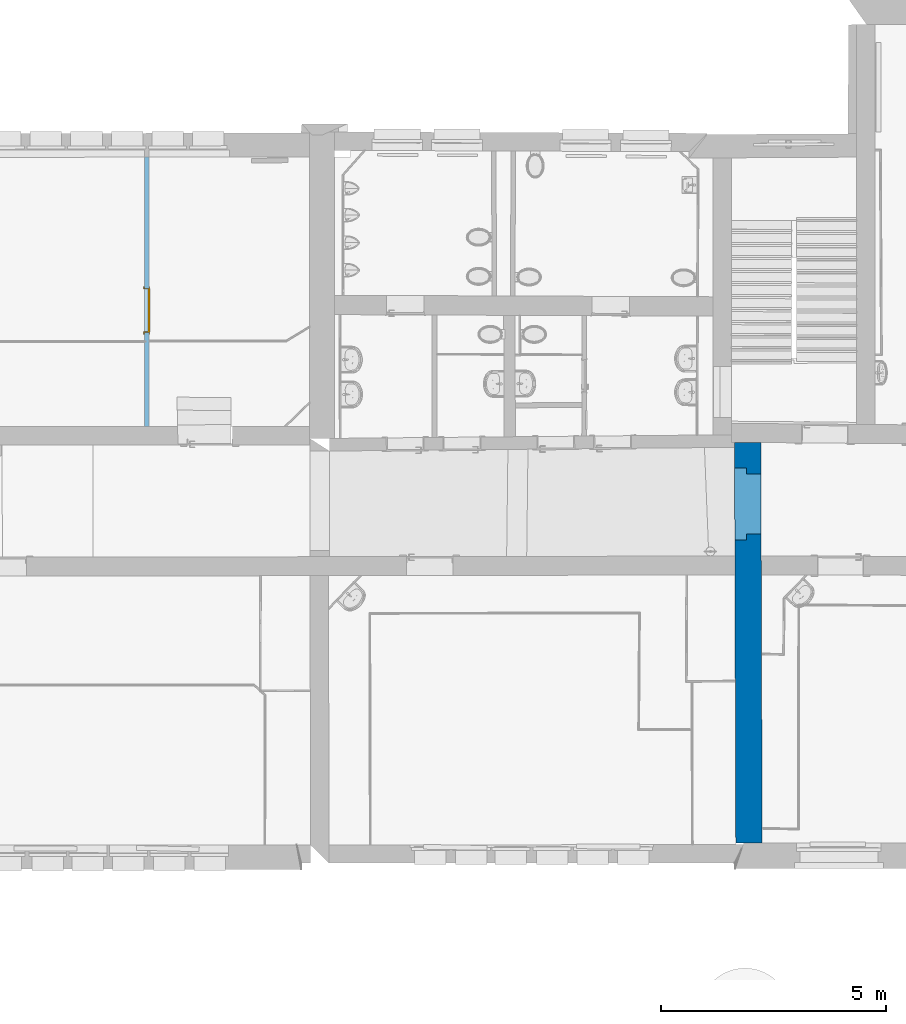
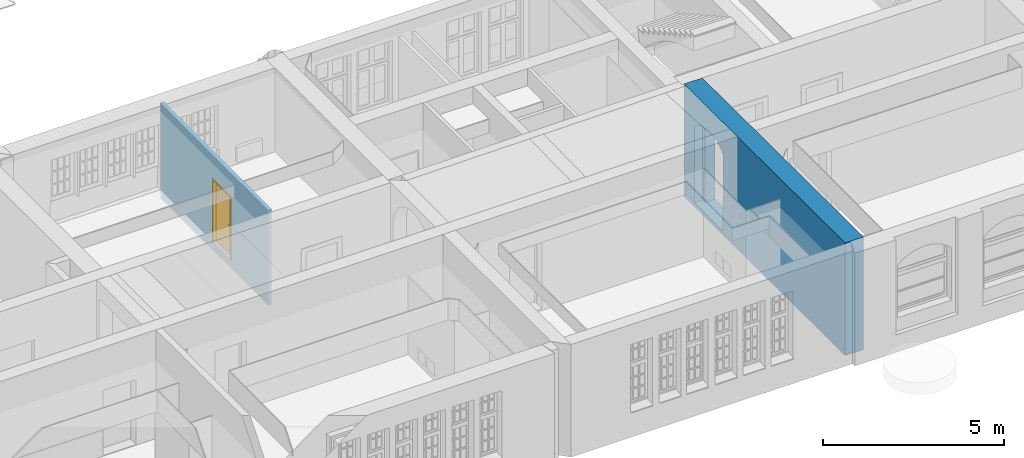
# One storey, part 80 of 158: 1 door, 1 wall, 2 openings, plus 1 element that does not belong to this part.
"""IFC2X3 building model written with IfcOpenShell, lengths in metres."""

from ifc_helpers import new_model, entity, si_unit, converted_unit, derived_unit, money_unit, direction, frame, origin_with_axes, origin_2d_with_axis, place, context, subcontext, project, spatial, polyline, rectangle, outline, extrude, boolean, faceted_brep, material, layer, layer_set, layer_usage, type_object, element, fill, save


model = new_model("IFC2X3")

# Units and contexts
model_context = context("Model", 3, precision=1e-05, world=origin_with_axes(), true_north=direction((0.0, 1.0)))
body_context = subcontext(model_context, "Body", "Model", "MODEL_VIEW")
ifc_project = project(units=[si_unit("LENGTHUNIT", "METRE"), si_unit("AREAUNIT", "SQUARE_METRE"), si_unit("VOLUMEUNIT", "CUBIC_METRE"), converted_unit("PLANEANGLEUNIT", "DEGREE", entity("IfcPlaneAngleMeasure", 0.0174532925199), si_unit("PLANEANGLEUNIT", "RADIAN"), dimensions=[0, 0, 0, 0, 0, 0, 0]), money_unit("EUR"), converted_unit("TIMEUNIT", "Year", entity("IfcTimeMeasure", 31556926.0), si_unit("TIMEUNIT", "SECOND"), dimensions=[0, 0, 1, 0, 0, 0, 0]), si_unit("MASSUNIT", "GRAM", prefix="KILO"), si_unit("THERMODYNAMICTEMPERATUREUNIT", "DEGREE_CELSIUS"), si_unit("LUMINOUSINTENSITYUNIT", "LUMEN"), si_unit("ENERGYUNIT", "JOULE", prefix="MEGA"), derived_unit("THERMALCONDUCTANCEUNIT", [(si_unit("POWERUNIT", "WATT"), 1), (si_unit("LENGTHUNIT", "METRE"), -1), (si_unit("THERMODYNAMICTEMPERATUREUNIT", "KELVIN"), -1)]), derived_unit("SPECIFICHEATCAPACITYUNIT", [(si_unit("ENERGYUNIT", "JOULE"), 1), (si_unit("MASSUNIT", "GRAM", prefix="KILO"), -1), (si_unit("THERMODYNAMICTEMPERATUREUNIT", "KELVIN"), -1)]), derived_unit("MASSDENSITYUNIT", [(si_unit("MASSUNIT", "GRAM", prefix="KILO"), 1), (si_unit("VOLUMEUNIT", "CUBIC_METRE"), -1)])], contexts=[model_context])

# Site, building, storey
site_placement = place(None, origin_with_axes())
site = spatial("IfcSite", under=ifc_project, at=site_placement, Name="Gelände", CompositionType="ELEMENT")
building_placement = place(site_placement, origin_with_axes())
building = spatial("IfcBuilding", under=site, at=building_placement, Name="Gebäude", CompositionType="ELEMENT")
storey_placement = place(building_placement, origin_with_axes())
storey = spatial("IfcBuildingStorey", under=building, at=storey_placement, Name="ERDGESCHOSS", CompositionType="ELEMENT", Elevation=0.0)

# Wall, opening, door
ifc_material_1 = material(Name="43_Gipskarton")
ifc_layer = layer(ifc_material_1, 0.1, ventilated="UNKNOWN")
ifc_layer_set = layer_set([ifc_layer], Name="43_Gipskarton 0.1")
ifc_layer_usage = layer_usage(ifc_layer_set, "AXIS2", "NEGATIVE", 0.0)
wall_type_1 = type_object("IfcWallType", Name="43_Gipskarton 100", PredefinedType="ELEMENTEDWALL")
wall_1_placement = place(storey_placement, frame((8.97609706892, 26.1968101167, 0.475), z_axis=(0.0, 0.0, 1.0), x_axis=(-0.000177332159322, -0.999999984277, 0.0)))
wall_1 = element("IfcWallStandardCase", 1, at=wall_1_placement, inside=storey, type_object=wall_type_1, material=ifc_layer_usage, Name="Wand-039", ObjectType="ELEMENTEDWALL", context=body_context, shape_type="SweptSolid", body=[
    extrude(outline(polyline([(0.530185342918, -0.1), (6.50207929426, -0.1), (6.50203244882, 0.0), (0.530000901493, 0.0), (0.530185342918, -0.1)])), origin_with_axes(), (0.0, 0.0, 1.0), 3.225),
])
opening_1_placement = place(wall_1_placement, frame((3.92877805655, 0.0, 0.288706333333), z_axis=(0.0, 0.0, 1.0), x_axis=(1.0, 0.0, 0.0)))
opening_1 = element("IfcOpeningElement", 2, at=opening_1_placement, cuts=wall_1, Name="Tür-022", context=body_context, shape_type="SweptSolid", body=[
    extrude(rectangle(XDim=0.970880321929, YDim=2.115749, at=origin_2d_with_axis()), frame((0.0, 0.1, 1.0578745), z_axis=(0.0, 1.0, 0.0), x_axis=(-1.0, 0.0, 0.0)), (0.0, 0.0, -1.0), 0.3),
])
door_style = type_object("IfcDoorStyle", Name="Blockrahmentür 1-Fl 25", ConstructionType="NOTDEFINED", OperationType="SINGLE_SWING_LEFT", ParameterTakesPrecedence=False, Sizeable=False)
door_placement = place(opening_1_placement, frame((-0.470440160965, 0.0, 0.0), z_axis=(0.0, 0.0, 1.0), x_axis=(1.0, 0.0, 0.0)))
door = element("IfcDoor", 3, at=door_placement, inside=storey, type_object=door_style, Name="Tür-022", ObjectType="NOTDEFINED", OverallHeight=2.11575, OverallWidth=0.97088, context=body_context, shape_type="Brep", body=[
    faceted_brep([(-0.015, -0.115, 0.0), (-0.015, -0.115, 2.115749), (-0.015, -0.015, 2.115749), (-0.015, -0.015, 0.0), (0.0, -0.115, 0.0), (0.0, -0.115, 2.100749), (0.358340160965, -0.115, 2.100749), (0.470340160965, -0.115, 2.100749), (0.940880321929, -0.115, 2.100749), (0.940880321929, -0.115, 0.0), (0.955880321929, -0.115, 0.0), (0.955880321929, -0.115, 2.115749), (0.955880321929, -0.015, 2.115749), (0.955880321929, -0.015, 0.0), (0.940880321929, -0.015, 0.0), (0.940880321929, -0.015, 2.100749), (0.470340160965, -0.015, 2.100749), (0.358340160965, -0.015, 2.100749), (0.0, -0.015, 2.100749), (0.0, -0.015, 0.0)], [[[0, 1, 2, 3]], [[0, 4, 5, 6, 7, 8, 9, 10, 11, 1]], [[1, 11, 12, 2]], [[3, 2, 12, 13, 14, 15, 16, 17, 18, 19]], [[4, 0, 3, 19]], [[5, 4, 19, 18]], [[6, 5, 18, 17]], [[7, 6, 17, 16]], [[8, 7, 16, 15]], [[9, 8, 15, 14]], [[10, 9, 14, 13]], [[11, 10, 13, 12]]]),
    faceted_brep([(-0.015, -0.015, 0.0), (-0.015, -0.015, 2.115749), (-0.015, 0.015, 2.115749), (-0.015, 0.015, 0.0), (-0.012, -0.015, 0.0), (-0.012, -0.015, 2.112749), (0.370340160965, -0.015, 2.112749), (0.458340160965, -0.015, 2.112749), (0.952880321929, -0.015, 2.112749), (0.952880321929, -0.015, 0.0), (0.955880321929, -0.015, 0.0), (0.955880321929, -0.015, 2.115749), (0.955880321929, 0.015, 2.115749), (0.955880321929, 0.015, 0.0), (0.952880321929, 0.015, 0.0), (0.952880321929, 0.015, 2.112749), (0.458340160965, 0.015, 2.112749), (0.370340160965, 0.015, 2.112749), (-0.012, 0.015, 2.112749), (-0.012, 0.015, 0.0)], [[[0, 1, 2, 3]], [[0, 4, 5, 6, 7, 8, 9, 10, 11, 1]], [[1, 11, 12, 2]], [[3, 2, 12, 13, 14, 15, 16, 17, 18, 19]], [[4, 0, 3, 19]], [[5, 4, 19, 18]], [[6, 5, 18, 17]], [[7, 6, 17, 16]], [[8, 7, 16, 15]], [[9, 8, 15, 14]], [[10, 9, 14, 13]], [[11, 10, 13, 12]]]),
    faceted_brep([(-0.06, -0.115, 0.0), (-0.06, -0.115, 2.160749), (-0.06, -0.1, 2.160749), (-0.06, -0.1, 0.0), (-0.015, -0.115, 0.0), (-0.015, -0.115, 2.115749), (0.955880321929, -0.115, 2.115749), (0.955880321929, -0.115, 0.0), (1.00088032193, -0.115, 0.0), (1.00088032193, -0.115, 2.160749), (1.00088032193, -0.1, 2.160749), (1.00088032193, -0.1, 0.0), (0.955880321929, -0.1, 0.0), (0.955880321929, -0.1, 2.115749), (-0.015, -0.1, 2.115749), (-0.015, -0.1, 0.0)], [[[0, 1, 2, 3]], [[0, 4, 5, 6, 7, 8, 9, 1]], [[1, 9, 10, 2]], [[3, 2, 10, 11, 12, 13, 14, 15]], [[4, 0, 3, 15]], [[5, 4, 15, 14]], [[6, 5, 14, 13]], [[7, 6, 13, 12]], [[8, 7, 12, 11]], [[9, 8, 11, 10]]]),
    faceted_brep([(-0.06, 0.0, 0.0), (-0.06, 0.0, 2.160749), (-0.06, 0.015, 2.160749), (-0.06, 0.015, 0.0), (-0.015, 0.0, 0.0), (-0.015, 0.0, 2.115749), (0.955880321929, 0.0, 2.115749), (0.955880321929, 0.0, 0.0), (1.00088032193, 0.0, 0.0), (1.00088032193, 0.0, 2.160749), (1.00088032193, 0.015, 2.160749), (1.00088032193, 0.015, 0.0), (0.955880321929, 0.015, 0.0), (0.955880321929, 0.015, 2.115749), (-0.015, 0.015, 2.115749), (-0.015, 0.015, 0.0)], [[[0, 1, 2, 3]], [[0, 4, 5, 6, 7, 8, 9, 1]], [[1, 9, 10, 2]], [[3, 2, 10, 11, 12, 13, 14, 15]], [[4, 0, 3, 15]], [[5, 4, 15, 14]], [[6, 5, 14, 13]], [[7, 6, 13, 12]], [[8, 7, 12, 11]], [[9, 8, 11, 10]]]),
    faceted_brep([(-0.012, 0.025, 0.0), (-0.012, 0.025, 2.112749), (0.952880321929, 0.025, 2.112749), (0.952880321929, 0.025, 0.0), (-0.012, -0.015, 0.0), (-0.012, -0.015, 2.112749), (0.952880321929, -0.015, 2.112749), (0.952880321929, -0.015, 0.0)], [[[0, 1, 2, 3]], [[0, 4, 5, 1]], [[1, 5, 6, 2]], [[2, 6, 7, 3]], [[3, 7, 4, 0]], [[7, 6, 5, 4]]]),
    faceted_brep([(0.897582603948, -0.055, 1.05647213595), (0.897582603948, -0.035, 1.05647213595), (0.892880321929, -0.035, 1.058), (0.892880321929, -0.055, 1.058), (0.90048877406, -0.055, 1.05247213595), (0.90048877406, -0.035, 1.05247213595), (0.898758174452, -0.033, 1.05809016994), (0.892880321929, -0.033, 1.06), (0.888178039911, -0.035, 1.05647213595), (0.888178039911, -0.055, 1.05647213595), (0.885271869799, -0.055, 1.05247213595), (0.885271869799, -0.055, 1.04752786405), (0.888178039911, -0.055, 1.04352786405), (0.892880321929, -0.055, 1.042), (0.897582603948, -0.055, 1.04352786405), (0.90048877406, -0.055, 1.04752786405), (0.90048877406, -0.035, 1.04752786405), (0.902390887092, -0.033, 1.05309016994), (0.898758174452, -0.025, 1.05809016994), (0.892880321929, -0.025, 1.06), (0.887002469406, -0.033, 1.05809016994), (0.885271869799, -0.035, 1.05247213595), (0.885271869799, -0.035, 1.04752786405), (0.888178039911, -0.035, 1.04352786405), (0.892880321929, -0.035, 1.042), (0.897582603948, -0.035, 1.04352786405), (0.902390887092, -0.033, 1.04690983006), (0.902390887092, -0.025, 1.05309016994), (0.902390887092, -0.025, 1.04690983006), (0.898758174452, -0.025, 1.04190983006), (0.892880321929, -0.025, 1.04), (0.887002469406, -0.025, 1.04190983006), (0.883369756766, -0.025, 1.04690983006), (0.883369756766, -0.025, 1.05309016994), (0.887002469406, -0.025, 1.05809016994), (0.883369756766, -0.033, 1.05309016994), (0.883369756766, -0.033, 1.04690983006), (0.887002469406, -0.033, 1.04190983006), (0.892880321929, -0.033, 1.04), (0.898758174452, -0.033, 1.04190983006)], [[[0, 1, 2, 3]], [[4, 5, 1, 0]], [[1, 6, 7, 2]], [[3, 2, 8, 9]], [[3, 9, 10, 11, 12, 13, 14, 15, 4, 0]], [[15, 16, 5, 4]], [[5, 17, 6, 1]], [[6, 18, 19, 7]], [[2, 7, 20, 8]], [[9, 8, 21, 10]], [[10, 21, 22, 11]], [[11, 22, 23, 12]], [[12, 23, 24, 13]], [[13, 24, 25, 14]], [[14, 25, 16, 15]], [[16, 26, 17, 5]], [[17, 27, 18, 6]], [[19, 18, 27, 28, 29, 30, 31, 32, 33, 34]], [[7, 19, 34, 20]], [[8, 20, 35, 21]], [[21, 35, 36, 22]], [[22, 36, 37, 23]], [[23, 37, 38, 24]], [[24, 38, 39, 25]], [[25, 39, 26, 16]], [[26, 28, 27, 17]], [[39, 29, 28, 26]], [[38, 30, 29, 39]], [[37, 31, 30, 38]], [[36, 32, 31, 37]], [[35, 33, 32, 36]], [[20, 34, 33, 35]]]),
    faceted_brep([(0.880691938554, -0.025, 1.11759695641), (0.876080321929, -0.025, 1.11), (0.870380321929, -0.025, 1.11), (0.870380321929, -0.025, 0.89), (0.876080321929, -0.025, 0.89), (0.880691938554, -0.025, 0.882403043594), (0.888436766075, -0.025, 0.878044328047), (0.897323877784, -0.025, 0.878044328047), (0.905068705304, -0.025, 0.882403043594), (0.909680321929, -0.025, 0.89), (0.915380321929, -0.025, 0.89), (0.915380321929, -0.025, 1.11), (0.909680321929, -0.025, 1.11), (0.905068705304, -0.025, 1.11759695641), (0.897323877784, -0.025, 1.12195567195), (0.888436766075, -0.025, 1.12195567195), (0.892880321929, -0.025, 0.967425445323), (0.898255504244, -0.025, 0.965143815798), (0.900348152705, -0.025, 0.959692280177), (0.897880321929, -0.025, 0.9544), (0.897880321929, -0.025, 0.9375), (0.896415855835, -0.025, 0.933964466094), (0.892880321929, -0.025, 0.9325), (0.889344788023, -0.025, 0.933964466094), (0.887880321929, -0.025, 0.9375), (0.887880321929, -0.025, 0.9544), (0.885412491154, -0.025, 0.959692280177), (0.887505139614, -0.025, 0.965143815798), (0.880691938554, -0.015, 1.11759695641), (0.876080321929, -0.015, 1.11), (0.870380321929, -0.015, 1.11), (0.870380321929, -0.015, 0.89), (0.876080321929, -0.015, 0.89), (0.880691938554, -0.015, 0.882403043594), (0.888436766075, -0.015, 0.878044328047), (0.897323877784, -0.015, 0.878044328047), (0.905068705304, -0.015, 0.882403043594), (0.909680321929, -0.015, 0.89), (0.915380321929, -0.015, 0.89), (0.915380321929, -0.015, 1.11), (0.909680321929, -0.015, 1.11), (0.905068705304, -0.015, 1.11759695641), (0.897323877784, -0.015, 1.12195567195), (0.888436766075, -0.015, 1.12195567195), (0.892880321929, -0.015, 0.967425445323), (0.898255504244, -0.015, 0.965143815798), (0.900348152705, -0.015, 0.959692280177), (0.897880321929, -0.015, 0.9544), (0.897880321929, -0.015, 0.9375), (0.896415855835, -0.015, 0.933964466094), (0.892880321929, -0.015, 0.9325), (0.889344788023, -0.015, 0.933964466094), (0.887880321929, -0.015, 0.9375), (0.887880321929, -0.015, 0.9544), (0.885412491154, -0.015, 0.959692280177), (0.887505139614, -0.015, 0.965143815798)], [[[0, 1, 2, 3, 4, 5, 6, 7, 8, 9, 10, 11, 12, 13, 14, 15], [16, 17, 18, 19, 20, 21, 22, 23, 24, 25, 26, 27]], [[0, 28, 29, 1]], [[1, 29, 30, 2]], [[2, 30, 31, 3]], [[3, 31, 32, 4]], [[4, 32, 33, 5]], [[5, 33, 34, 6]], [[6, 34, 35, 7]], [[7, 35, 36, 8]], [[8, 36, 37, 9]], [[9, 37, 38, 10]], [[10, 38, 39, 11]], [[11, 39, 40, 12]], [[12, 40, 41, 13]], [[13, 41, 42, 14]], [[14, 42, 43, 15]], [[15, 43, 28, 0]], [[16, 44, 45, 17]], [[17, 45, 46, 18]], [[18, 46, 47, 19]], [[47, 48, 20, 19]], [[21, 20, 48, 49]], [[22, 21, 49, 50]], [[23, 22, 50, 51]], [[24, 23, 51, 52]], [[25, 24, 52, 53]], [[25, 53, 54, 26]], [[26, 54, 55, 27]], [[27, 55, 44, 16]], [[32, 31, 30, 29, 28, 43, 42, 41, 40, 39, 38, 37, 36, 35, 34, 33], [46, 45, 44, 55, 54, 53, 52, 51, 50, 49, 48, 47]]]),
    faceted_brep([(0.778627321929, -0.055, 1.057158), (0.778625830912, -0.055, 1.05719388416), (0.778625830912, -0.07, 1.05719388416), (0.778627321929, -0.07, 1.057158), (0.805654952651, -0.055, 1.06432652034), (0.833483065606, -0.055, 1.06706086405), (0.861389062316, -0.055, 1.06529002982), (0.888648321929, -0.055, 1.05906), (0.895050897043, -0.055, 1.05976125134), (0.900552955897, -0.055, 1.05641280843), (0.902871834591, -0.055, 1.05040385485), (0.901045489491, -0.055, 1.04422735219), (0.895831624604, -0.055, 1.04044577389), (0.889393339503, -0.055, 1.04062800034), (0.884401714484, -0.055, 1.04469843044), (0.884422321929, -0.055, 1.044666), (0.859133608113, -0.055, 1.05019878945), (0.833291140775, -0.055, 1.05171460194), (0.807529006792, -0.055, 1.04917624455), (0.782479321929, -0.055, 1.042646), (0.776936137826, -0.055, 1.04356849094), (0.773574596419, -0.055, 1.04807159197), (0.774266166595, -0.055, 1.05364829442), (0.774266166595, -0.07, 1.05364829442), (0.773574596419, -0.07, 1.04807159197), (0.776936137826, -0.07, 1.04356849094), (0.782479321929, -0.07, 1.042646), (0.807529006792, -0.07, 1.04917624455), (0.833291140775, -0.07, 1.05171460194), (0.859133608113, -0.07, 1.05019878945), (0.884422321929, -0.07, 1.044666), (0.884401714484, -0.07, 1.04469843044), (0.889393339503, -0.07, 1.04062800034), (0.895831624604, -0.07, 1.04044577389), (0.901045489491, -0.07, 1.04422735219), (0.902871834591, -0.07, 1.05040385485), (0.900552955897, -0.07, 1.05641280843), (0.895050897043, -0.07, 1.05976125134), (0.888648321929, -0.07, 1.05906), (0.861389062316, -0.07, 1.06529002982), (0.833483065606, -0.07, 1.06706086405), (0.805654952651, -0.07, 1.06432652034)], [[[0, 1, 2, 3]], [[0, 4, 5, 6, 7, 8, 9, 10, 11, 12, 13, 14, 15, 16, 17, 18, 19, 20, 21, 22, 1]], [[1, 22, 23, 2]], [[3, 2, 23, 24, 25, 26, 27, 28, 29, 30, 31, 32, 33, 34, 35, 36, 37, 38, 39, 40, 41]], [[4, 0, 3, 41]], [[5, 4, 41, 40]], [[6, 5, 40, 39]], [[7, 6, 39, 38]], [[8, 7, 38, 37]], [[9, 8, 37, 36]], [[10, 9, 36, 35]], [[11, 10, 35, 34]], [[12, 11, 34, 33]], [[13, 12, 33, 32]], [[14, 13, 32, 31]], [[15, 14, 31, 30]], [[16, 15, 30, 29]], [[17, 16, 29, 28]], [[18, 17, 28, 27]], [[19, 18, 27, 26]], [[20, 19, 26, 25]], [[21, 20, 25, 24]], [[22, 21, 24, 23]]]),
    faceted_brep([(0.897582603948, 0.065, 1.05647213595), (0.892880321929, 0.065, 1.058), (0.892880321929, 0.045, 1.058), (0.897582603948, 0.045, 1.05647213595), (0.90048877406, 0.065, 1.05247213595), (0.90048877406, 0.065, 1.04752786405), (0.897582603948, 0.065, 1.04352786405), (0.892880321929, 0.065, 1.042), (0.888178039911, 0.065, 1.04352786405), (0.885271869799, 0.065, 1.04752786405), (0.885271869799, 0.065, 1.05247213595), (0.888178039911, 0.065, 1.05647213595), (0.888178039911, 0.045, 1.05647213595), (0.892880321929, 0.043, 1.06), (0.898758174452, 0.043, 1.05809016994), (0.90048877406, 0.045, 1.05247213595), (0.90048877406, 0.045, 1.04752786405), (0.897582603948, 0.045, 1.04352786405), (0.892880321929, 0.045, 1.042), (0.888178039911, 0.045, 1.04352786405), (0.885271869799, 0.045, 1.04752786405), (0.885271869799, 0.045, 1.05247213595), (0.887002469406, 0.043, 1.05809016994), (0.892880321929, 0.035, 1.06), (0.898758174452, 0.035, 1.05809016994), (0.902390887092, 0.043, 1.05309016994), (0.902390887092, 0.043, 1.04690983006), (0.898758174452, 0.043, 1.04190983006), (0.892880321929, 0.043, 1.04), (0.887002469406, 0.043, 1.04190983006), (0.883369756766, 0.043, 1.04690983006), (0.883369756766, 0.043, 1.05309016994), (0.887002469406, 0.035, 1.05809016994), (0.883369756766, 0.035, 1.05309016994), (0.883369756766, 0.035, 1.04690983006), (0.887002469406, 0.035, 1.04190983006), (0.892880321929, 0.035, 1.04), (0.898758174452, 0.035, 1.04190983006), (0.902390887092, 0.035, 1.04690983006), (0.902390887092, 0.035, 1.05309016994)], [[[0, 1, 2, 3]], [[1, 0, 4, 5, 6, 7, 8, 9, 10, 11]], [[1, 11, 12, 2]], [[3, 2, 13, 14]], [[4, 0, 3, 15]], [[5, 4, 15, 16]], [[6, 5, 16, 17]], [[7, 6, 17, 18]], [[8, 7, 18, 19]], [[9, 8, 19, 20]], [[10, 9, 20, 21]], [[11, 10, 21, 12]], [[2, 12, 22, 13]], [[14, 13, 23, 24]], [[15, 3, 14, 25]], [[16, 15, 25, 26]], [[17, 16, 26, 27]], [[18, 17, 27, 28]], [[19, 18, 28, 29]], [[20, 19, 29, 30]], [[21, 20, 30, 31]], [[12, 21, 31, 22]], [[13, 22, 32, 23]], [[23, 32, 33, 34, 35, 36, 37, 38, 39, 24]], [[25, 14, 24, 39]], [[26, 25, 39, 38]], [[27, 26, 38, 37]], [[28, 27, 37, 36]], [[29, 28, 36, 35]], [[30, 29, 35, 34]], [[31, 30, 34, 33]], [[22, 31, 33, 32]]]),
    faceted_brep([(0.880691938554, 0.025, 1.11759695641), (0.876080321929, 0.025, 1.11), (0.870380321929, 0.025, 1.11), (0.870380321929, 0.025, 0.89), (0.876080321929, 0.025, 0.89), (0.880691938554, 0.025, 0.882403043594), (0.888436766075, 0.025, 0.878044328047), (0.897323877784, 0.025, 0.878044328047), (0.905068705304, 0.025, 0.882403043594), (0.909680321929, 0.025, 0.89), (0.915380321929, 0.025, 0.89), (0.915380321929, 0.025, 1.11), (0.909680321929, 0.025, 1.11), (0.905068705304, 0.025, 1.11759695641), (0.897323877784, 0.025, 1.12195567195), (0.888436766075, 0.025, 1.12195567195), (0.892880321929, 0.025, 0.967425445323), (0.898255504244, 0.025, 0.965143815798), (0.900348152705, 0.025, 0.959692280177), (0.897880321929, 0.025, 0.9544), (0.897880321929, 0.025, 0.9375), (0.896415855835, 0.025, 0.933964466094), (0.892880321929, 0.025, 0.9325), (0.889344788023, 0.025, 0.933964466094), (0.887880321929, 0.025, 0.9375), (0.887880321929, 0.025, 0.9544), (0.885412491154, 0.025, 0.959692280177), (0.887505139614, 0.025, 0.965143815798), (0.880691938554, 0.035, 1.11759695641), (0.876080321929, 0.035, 1.11), (0.870380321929, 0.035, 1.11), (0.870380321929, 0.035, 0.89), (0.876080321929, 0.035, 0.89), (0.880691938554, 0.035, 0.882403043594), (0.888436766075, 0.035, 0.878044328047), (0.897323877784, 0.035, 0.878044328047), (0.905068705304, 0.035, 0.882403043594), (0.909680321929, 0.035, 0.89), (0.915380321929, 0.035, 0.89), (0.915380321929, 0.035, 1.11), (0.909680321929, 0.035, 1.11), (0.905068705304, 0.035, 1.11759695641), (0.897323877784, 0.035, 1.12195567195), (0.888436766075, 0.035, 1.12195567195), (0.892880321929, 0.035, 0.967425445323), (0.898255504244, 0.035, 0.965143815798), (0.900348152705, 0.035, 0.959692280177), (0.897880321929, 0.035, 0.9544), (0.897880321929, 0.035, 0.9375), (0.896415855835, 0.035, 0.933964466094), (0.892880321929, 0.035, 0.9325), (0.889344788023, 0.035, 0.933964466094), (0.887880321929, 0.035, 0.9375), (0.887880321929, 0.035, 0.9544), (0.885412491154, 0.035, 0.959692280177), (0.887505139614, 0.035, 0.965143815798)], [[[0, 1, 2, 3, 4, 5, 6, 7, 8, 9, 10, 11, 12, 13, 14, 15], [16, 17, 18, 19, 20, 21, 22, 23, 24, 25, 26, 27]], [[28, 29, 1, 0]], [[29, 30, 2, 1]], [[30, 31, 3, 2]], [[31, 32, 4, 3]], [[32, 33, 5, 4]], [[33, 34, 6, 5]], [[34, 35, 7, 6]], [[35, 36, 8, 7]], [[36, 37, 9, 8]], [[37, 38, 10, 9]], [[38, 39, 11, 10]], [[39, 40, 12, 11]], [[40, 41, 13, 12]], [[41, 42, 14, 13]], [[42, 43, 15, 14]], [[43, 28, 0, 15]], [[16, 44, 45, 17]], [[17, 45, 46, 18]], [[18, 46, 47, 19]], [[47, 48, 20, 19]], [[21, 20, 48, 49]], [[22, 21, 49, 50]], [[23, 22, 50, 51]], [[24, 23, 51, 52]], [[25, 24, 52, 53]], [[25, 53, 54, 26]], [[26, 54, 55, 27]], [[27, 55, 44, 16]], [[32, 31, 30, 29, 28, 43, 42, 41, 40, 39, 38, 37, 36, 35, 34, 33], [46, 45, 44, 55, 54, 53, 52, 51, 50, 49, 48, 47]]]),
    faceted_brep([(0.778627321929, 0.065, 1.057158), (0.778627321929, 0.08, 1.057158), (0.778625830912, 0.08, 1.05719388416), (0.778625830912, 0.065, 1.05719388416), (0.805654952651, 0.065, 1.06432652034), (0.805654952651, 0.08, 1.06432652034), (0.833483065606, 0.08, 1.06706086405), (0.861389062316, 0.08, 1.06529002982), (0.888648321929, 0.08, 1.05906), (0.895050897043, 0.08, 1.05976125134), (0.900552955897, 0.08, 1.05641280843), (0.902871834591, 0.08, 1.05040385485), (0.901045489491, 0.08, 1.04422735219), (0.895831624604, 0.08, 1.04044577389), (0.889393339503, 0.08, 1.04062800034), (0.884401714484, 0.08, 1.04469843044), (0.884422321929, 0.08, 1.044666), (0.859133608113, 0.08, 1.05019878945), (0.833291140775, 0.08, 1.05171460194), (0.807529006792, 0.08, 1.04917624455), (0.782479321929, 0.08, 1.042646), (0.776936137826, 0.08, 1.04356849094), (0.773574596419, 0.08, 1.04807159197), (0.774266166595, 0.08, 1.05364829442), (0.774266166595, 0.065, 1.05364829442), (0.773574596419, 0.065, 1.04807159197), (0.776936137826, 0.065, 1.04356849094), (0.782479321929, 0.065, 1.042646), (0.807529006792, 0.065, 1.04917624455), (0.833291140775, 0.065, 1.05171460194), (0.859133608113, 0.065, 1.05019878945), (0.884422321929, 0.065, 1.044666), (0.884401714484, 0.065, 1.04469843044), (0.889393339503, 0.065, 1.04062800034), (0.895831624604, 0.065, 1.04044577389), (0.901045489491, 0.065, 1.04422735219), (0.902871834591, 0.065, 1.05040385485), (0.900552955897, 0.065, 1.05641280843), (0.895050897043, 0.065, 1.05976125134), (0.888648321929, 0.065, 1.05906), (0.861389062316, 0.065, 1.06529002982), (0.833483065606, 0.065, 1.06706086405)], [[[0, 1, 2, 3]], [[4, 5, 1, 0]], [[1, 5, 6, 7, 8, 9, 10, 11, 12, 13, 14, 15, 16, 17, 18, 19, 20, 21, 22, 23, 2]], [[3, 2, 23, 24]], [[0, 3, 24, 25, 26, 27, 28, 29, 30, 31, 32, 33, 34, 35, 36, 37, 38, 39, 40, 41, 4]], [[41, 6, 5, 4]], [[40, 7, 6, 41]], [[39, 8, 7, 40]], [[38, 9, 8, 39]], [[37, 10, 9, 38]], [[36, 11, 10, 37]], [[35, 12, 11, 36]], [[34, 13, 12, 35]], [[33, 14, 13, 34]], [[32, 15, 14, 33]], [[31, 16, 15, 32]], [[30, 17, 16, 31]], [[29, 18, 17, 30]], [[28, 19, 18, 29]], [[27, 20, 19, 28]], [[26, 21, 20, 27]], [[25, 22, 21, 26]], [[24, 23, 22, 25]]]),
])
fill(opening_1, door)

# Wall, opening
ifc_material_2 = material(Name="05_ALLGEMEIN - TRAGENDE BAUTEILE")
wall_type_2 = type_object("IfcWallType", Name="05_ALLGEMEIN - TRAGENDE BAUTEILE 585", PredefinedType="ELEMENTEDWALL")
wall_2_placement = place(storey_placement, frame((21.9635319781, 19.3421387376, -0.21), z_axis=(0.0, 0.0, 1.0), x_axis=(0.00314804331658, -0.999995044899, 0.0)))
wall_2 = element("IfcWall", 4, at=wall_2_placement, inside=storey, type_object=wall_type_2, material=ifc_material_2, Name="Wand-040", ObjectType="ELEMENTEDWALL", context=body_context, shape_type="CSG", body=[
    boolean("DIFFERENCE", boolean("DIFFERENCE", extrude(outline(polyline([(-0.42002806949, 0.0), (9.45493617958, 0.0), (9.45493617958, 0.584866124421), (-0.42002806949, 0.584866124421), (-0.42002806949, 0.0)])), origin_with_axes(), (0.0, 0.0, 1.0), 3.81), faceted_brep([(0.0, 0.0, 3.81), (0.00676194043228, 0.584866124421, 3.81), (-0.42002806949, 0.584866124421, 3.81), (-0.42002806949, 0.0, 3.81), (0.00676194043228, 0.584866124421, 0.0), (0.0, 0.0, 0.0), (-0.42002806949, 0.584866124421, 0.0), (-0.42002806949, 0.0, 0.0)], [[[0, 1, 2, 3]], [[4, 1, 0, 5]], [[1, 4, 6, 2]], [[2, 6, 7, 3]], [[5, 0, 3, 7]], [[4, 5, 7, 6]]])), faceted_brep([(8.88493381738, 0.584866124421, 0.0), (8.88493381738, 0.584866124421, 3.81), (9.45493617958, 0.584866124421, 3.81), (9.45493617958, 0.584866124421, 0.0), (8.8832500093, 0.0, 3.81), (8.8832500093, 0.0, 0.0), (9.45493617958, 0.0, 3.81), (9.45493617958, 0.0, 0.0)], [[[0, 1, 2, 3]], [[4, 1, 0, 5]], [[1, 4, 6, 2]], [[6, 7, 3, 2]], [[5, 0, 3, 7]], [[4, 5, 7, 6]]])),
])
opening_2_placement = place(wall_2_placement, frame((1.36804959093, 0.0, 0.14), z_axis=(0.0, 0.0, 1.0), x_axis=(1.0, 0.0, 0.0)))
element("IfcOpeningElement", 5, at=opening_2_placement, cuts=wall_2, Name="Tür-022", context=body_context, shape_type="SweptSolid", body=[
    extrude(outline(polyline([(-0.662264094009, 0.0), (-0.662264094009, -2.52067231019), (-0.466325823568, -2.66394893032), (-0.240801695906, -2.75372010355), (0.0, -2.78429033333), (0.240801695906, -2.75372010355), (0.466325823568, -2.66394893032), (0.662264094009, -2.52067231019), (0.662264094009, 0.0), (-0.662264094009, 0.0)])), frame((0.0, 0.261866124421, 0.0), z_axis=(0.0, -1.0, 0.0), x_axis=(-1.0, 0.0, 0.0)), (0.0, 0.0, -1.0), 0.907866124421),
    extrude(outline(polyline([(0.797264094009, 0.0), (0.797264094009, 2.57656633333), (0.566119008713, 2.76220887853), (0.293753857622, 2.87929188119), (0.0, 2.91929033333), (-0.293753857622, 2.87929188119), (-0.566119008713, 2.76220887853), (-0.797264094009, 2.57656633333), (-0.797264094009, 0.0), (0.797264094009, 0.0)])), frame((0.0, 0.261866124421, 0.0), z_axis=(0.0, 1.0, 0.0), x_axis=(-1.0, 0.0, 0.0)), (0.0, 0.0, -1.0), 0.846732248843),
])

save(model, "model.ifc")
